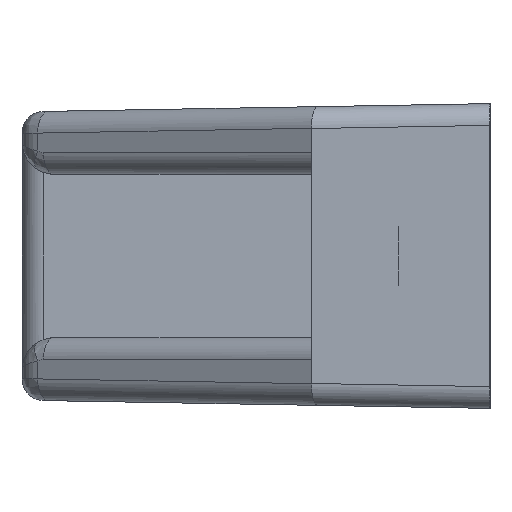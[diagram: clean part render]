
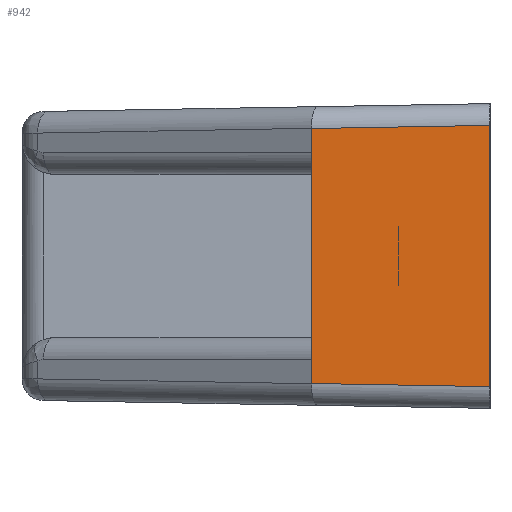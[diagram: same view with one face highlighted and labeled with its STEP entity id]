
A CAD part, left-side view. The second image highlights one B-rep face of the part: STEP entity #942.
In plain terms, the highlighted planar face has unit normal (-1, 0, 0).
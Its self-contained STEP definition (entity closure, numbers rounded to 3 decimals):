
#47 = CARTESIAN_POINT ( 'NONE',  ( -84.714, 16.4, -14. ) ) ;
#81 = EDGE_CURVE ( 'NONE', #2772, #2694, #1117, .T. ) ;
#116 = DIRECTION ( 'NONE',  ( 0., 0., 1. ) ) ;
#169 = ORIENTED_EDGE ( 'NONE', *, *, #1008, .T. ) ;
#196 = VECTOR ( 'NONE', #240, 1000. ) ;
#240 = DIRECTION ( 'NONE',  ( 0., 0., 1. ) ) ;
#270 = PLANE ( 'NONE',  #2278 ) ;
#434 = CARTESIAN_POINT ( 'NONE',  ( -84.714, 16.365, 11.714 ) ) ;
#663 = EDGE_CURVE ( 'NONE', #1993, #2772, #2792, .T. ) ;
#739 = VERTEX_POINT ( 'NONE', #3229 ) ;
#787 = DIRECTION ( 'NONE',  ( 0., 0., 1. ) ) ;
#818 = ORIENTED_EDGE ( 'NONE', *, *, #663, .F. ) ;
#842 = DIRECTION ( 'NONE',  ( 0., 0., 1. ) ) ;
#942 = ADVANCED_FACE ( 'NONE', ( #1306 ), #270, .F. ) ;
#1007 = ORIENTED_EDGE ( 'NONE', *, *, #3152, .F. ) ;
#1008 = EDGE_CURVE ( 'NONE', #1226, #1309, #1406, .T. ) ;
#1035 = EDGE_LOOP ( 'NONE', ( #1007, #169, #2838, #1756, #2262, #818 ) ) ;
#1117 = LINE ( 'NONE', #2628, #2732 ) ;
#1154 = DIRECTION ( 'NONE',  ( 0., -1., -0.017 ) ) ;
#1226 = VERTEX_POINT ( 'NONE', #2332 ) ;
#1292 = EDGE_CURVE ( 'NONE', #1309, #739, #3127, .T. ) ;
#1306 = FACE_OUTER_BOUND ( 'NONE', #1035, .T. ) ;
#1309 = VERTEX_POINT ( 'NONE', #2864 ) ;
#1406 = LINE ( 'NONE', #2412, #2821 ) ;
#1687 = VECTOR ( 'NONE', #842, 1000. ) ;
#1737 = EDGE_CURVE ( 'NONE', #739, #2694, #1943, .T. ) ;
#1756 = ORIENTED_EDGE ( 'NONE', *, *, #1737, .T. ) ;
#1943 = LINE ( 'NONE', #434, #3186 ) ;
#1972 = CARTESIAN_POINT ( 'NONE',  ( -84.714, 16.4, 11.713 ) ) ;
#1993 = VERTEX_POINT ( 'NONE', #2103 ) ;
#2028 = LINE ( 'NONE', #3035, #2692 ) ;
#2103 = CARTESIAN_POINT ( 'NONE',  ( -84.714, 16.4, -9.5 ) ) ;
#2201 = DIRECTION ( 'NONE',  ( 0., 1., -0.017 ) ) ;
#2223 = CARTESIAN_POINT ( 'NONE',  ( -84.714, 16.4, -7.5 ) ) ;
#2262 = ORIENTED_EDGE ( 'NONE', *, *, #81, .F. ) ;
#2278 = AXIS2_PLACEMENT_3D ( 'NONE', #47, #2853, #2290 ) ;
#2290 = DIRECTION ( 'NONE',  ( 0., 0., -1. ) ) ;
#2332 = CARTESIAN_POINT ( 'NONE',  ( -84.714, 16.4, -11.713 ) ) ;
#2412 = CARTESIAN_POINT ( 'NONE',  ( -84.714, 16.36, -11.714 ) ) ;
#2462 = CARTESIAN_POINT ( 'NONE',  ( -84.714, 16.4, 9.5 ) ) ;
#2628 = CARTESIAN_POINT ( 'NONE',  ( -84.714, 16.4, -14. ) ) ;
#2692 = VECTOR ( 'NONE', #787, 1000. ) ;
#2694 = VERTEX_POINT ( 'NONE', #1972 ) ;
#2732 = VECTOR ( 'NONE', #116, 1000. ) ;
#2772 = VERTEX_POINT ( 'NONE', #2462 ) ;
#2792 = LINE ( 'NONE', #2223, #196 ) ;
#2821 = VECTOR ( 'NONE', #1154, 1000. ) ;
#2838 = ORIENTED_EDGE ( 'NONE', *, *, #1292, .T. ) ;
#2853 = DIRECTION ( 'NONE',  ( 1., 0., 0. ) ) ;
#2864 = CARTESIAN_POINT ( 'NONE',  ( -84.714, 0., -12. ) ) ;
#3035 = CARTESIAN_POINT ( 'NONE',  ( -84.714, 16.4, -14. ) ) ;
#3107 = CARTESIAN_POINT ( 'NONE',  ( -84.714, 0., -14. ) ) ;
#3127 = LINE ( 'NONE', #3107, #1687 ) ;
#3152 = EDGE_CURVE ( 'NONE', #1226, #1993, #2028, .T. ) ;
#3186 = VECTOR ( 'NONE', #2201, 1000. ) ;
#3229 = CARTESIAN_POINT ( 'NONE',  ( -84.714, 0., 12. ) ) ;
